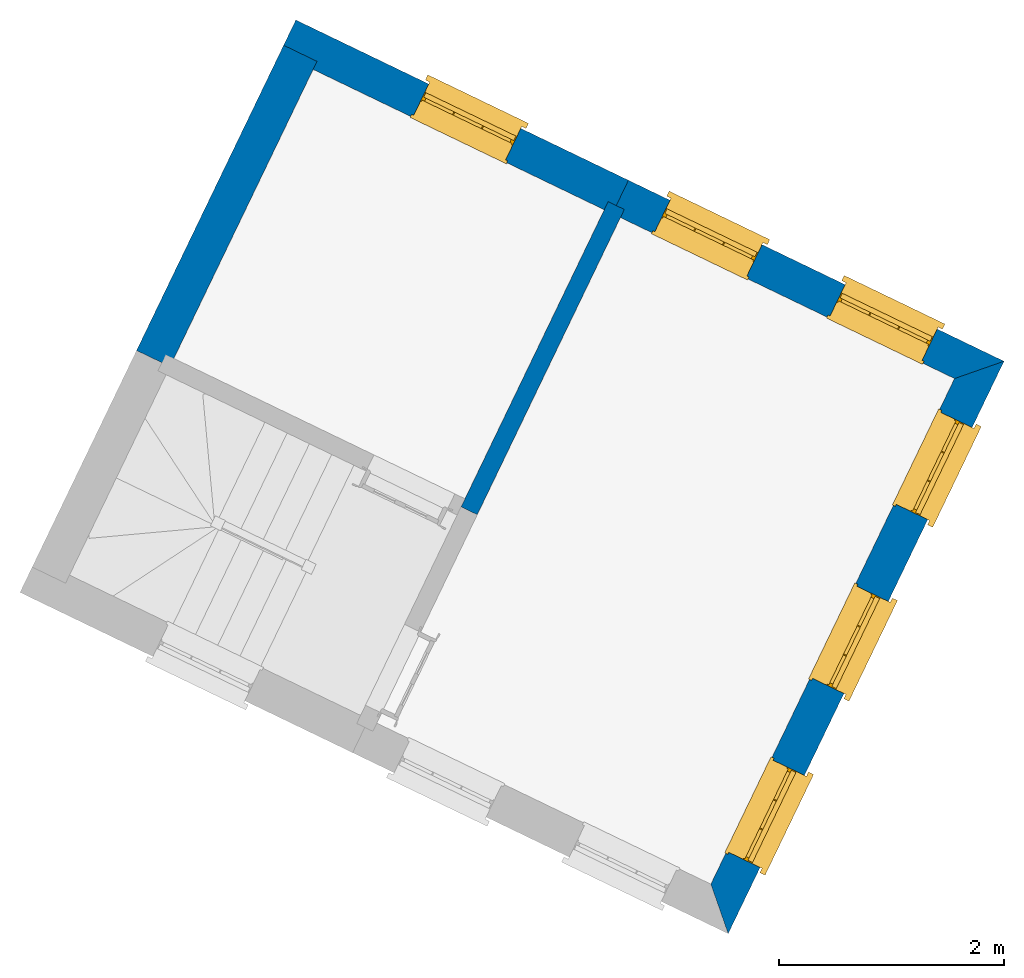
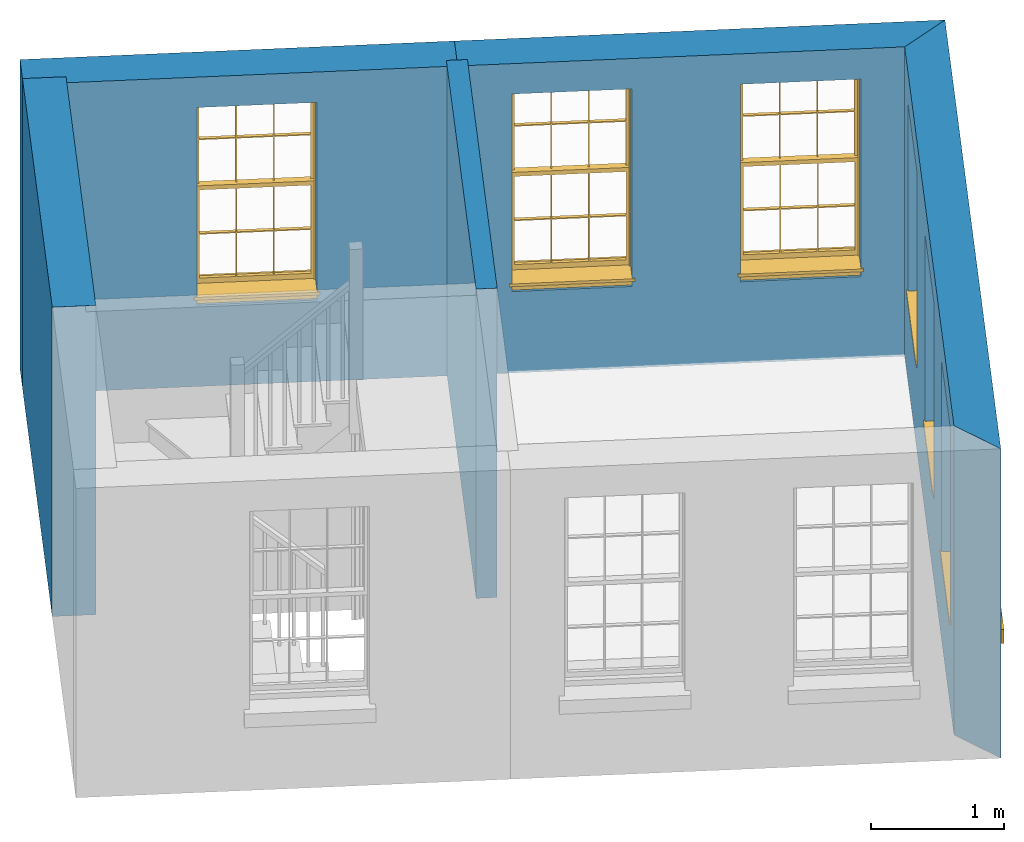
# One storey, part 2 of 3: 6 windows, 5 walls, 6 openings.
"""IFC4 building model written with IfcOpenShell, lengths in metres."""

from ifc_helpers import new_model, si_unit, frame, origin, origin_with_axes, place, context, subcontext, project, spatial, polyline, outline, extrude, faceted_brep, source, transform, mapped, material, layer, layer_set, layer_usage, type_object, type_shapes, element, fill, save


model = new_model("IFC4")

# Units and contexts
model_context = context("Model", 3, world=origin_with_axes())
body_context = subcontext(model_context, "Body", "Model", "MODEL_VIEW")
ifc_project = project(units=[si_unit("PLANEANGLEUNIT", "RADIAN"), si_unit("MASSUNIT", "GRAM", prefix="KILO"), si_unit("FORCEUNIT", "NEWTON", prefix="KILO"), si_unit("LENGTHUNIT", "METRE"), si_unit("AREAUNIT", "SQUARE_METRE"), si_unit("VOLUMEUNIT", "CUBIC_METRE")], contexts=[model_context, model_context])

# Sites, building, storey
site_1_placement = place(None, origin_with_axes())
site_1 = spatial("IfcSite", under=ifc_project, at=site_1_placement, Name="Tamar")
site_2_placement = place(site_1_placement, origin_with_axes())
site_2 = spatial("IfcSite", under=site_1, at=site_2_placement, Name="Site plot-2", CompositionType="ELEMENT")
building_placement = place(None, origin_with_axes())
building = spatial("IfcBuilding", under=site_2, at=building_placement, Name="Building plot-2", CompositionType="ELEMENT")
storey_placement = place(None, frame((0.0, 0.0, 28.7), z_axis=(0.0, 0.0, 1.0), x_axis=(1.0, 0.0, 0.0)))
storey = spatial("IfcBuildingStorey", under=building, at=storey_placement, Name="plot-2 1", CompositionType="ELEMENT", Elevation=28.7)

# Wall, openings, windows
ifc_material_1 = material(Name="Masonry")
ifc_layer_1 = layer(ifc_material_1, 0.33, ventilated=False)
ifc_layer_set_1 = layer_set([ifc_layer_1], Name="exterior_0.08_0.25")
ifc_layer_usage_1 = layer_usage(ifc_layer_set_1, "AXIS2", "POSITIVE", -0.25)
wall_type_1 = type_object("IfcWallType", Name="exterior_0.08_0.25", PredefinedType="SOLIDWALL", material=ifc_layer_set_1)
wall_1_placement = place(storey_placement, frame((233.57279828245, 288.487166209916, 0.0), z_axis=(0.0, 0.0, 1.0), x_axis=(0.434117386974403, 0.900856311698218, 0.0)))
wall_1 = element("IfcWall", 1, at=wall_1_placement, inside=storey, type_object=wall_type_1, material=ifc_layer_usage_1, Name="exterior", context=body_context, shape_type="SweptSolid", body=[
    extrude(outline(polyline([(0.0800000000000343, 0.0800000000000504), (-0.250000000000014, -0.250000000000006), (5.40807761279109, -0.249999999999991), (5.07807761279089, 0.0800000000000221), (0.0800000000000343, 0.0800000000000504)])), origin_with_axes(), (0.0, 0.0, 1.0), 2.85),
])
opening_1_placement = place(wall_1_placement, frame((0.404679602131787, 0.0, 0.75)))
opening_1 = element("IfcOpeningElement", 2, at=opening_1_placement, cuts=wall_1, Name="My Opening", ObjectType="Opening", context=body_context, shape_type="SweptSolid", body=[
    extrude(outline(polyline([(0.0, -0.270000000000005), (0.910000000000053, -0.27), (0.910000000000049, 1.09999999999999), (-3.33066907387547e-15, 1.09999999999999), (0.0, -0.270000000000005)])), origin_with_axes(), (0.0, 0.0, 1.0), 1.82),
])
opening_2_placement = place(wall_1_placement, frame((2.12403880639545, 0.0, 0.75)))
opening_2 = element("IfcOpeningElement", 3, at=opening_2_placement, cuts=wall_1, Name="My Opening", ObjectType="Opening", context=body_context, shape_type="SweptSolid", body=[
    extrude(outline(polyline([(0.0, -0.270000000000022), (0.91000000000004, -0.269999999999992), (0.910000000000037, 1.1), (-3.10862446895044e-15, 1.09999999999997), (0.0, -0.270000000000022)])), origin_with_axes(), (0.0, 0.0, 1.0), 1.82),
])
opening_3_placement = place(wall_1_placement, frame((3.8433980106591, 0.0, 0.75)))
opening_3 = element("IfcOpeningElement", 4, at=opening_3_placement, cuts=wall_1, Name="My Opening", ObjectType="Opening", context=body_context, shape_type="SweptSolid", body=[
    extrude(outline(polyline([(0.0, -0.270000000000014), (0.910000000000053, -0.270000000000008), (0.91000000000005, 1.09999999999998), (-3.10862446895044e-15, 1.09999999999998), (0.0, -0.270000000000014)])), origin_with_axes(), (0.0, 0.0, 1.0), 1.82),
])
window_type = type_object("IfcWindowType", Name="sash_big", PartitioningType="DOUBLE_PANEL_HORIZONTAL", PredefinedType="NOTDEFINED")
shared_shape = source(origin(), body_context, "Body", "Brep", [
    faceted_brep([(0.033125, 0.145, 0.975209), (0.01, 0.145, 0.975209), (0.033125, 0.145, 1.376042), (0.876875, 0.145, 0.975209), (0.876875, 0.145, 1.376042), (0.9, 0.145, 0.975209), (0.876875, 0.145, 1.386042), (0.876875, 0.145, 1.786875), (0.9, 0.145, 1.81), (0.033125, 0.145, 1.786875), (0.033125, 0.145, 1.386042), (0.01, 0.145, 1.81), (0.876875, 0.115, 1.376042), (0.876875, 0.115, 0.975209), (0.9, 0.115, 0.937083), (0.033125, 0.115, 1.786875), (0.01, 0.115, 1.81), (0.033125, 0.115, 1.386042), (0.01, 0.115, 0.937083), (0.033125, 0.115, 0.975209), (0.033125, 0.115, 1.376042), (0.876875, 0.115, 1.786875), (0.876875, 0.115, 1.386042), (0.9, 0.115, 1.81), (0.033125, 0.145, 0.937083), (0.01, 0.145, 0.937083), (0.033125, 0.145, 0.53625), (0.876875, 0.145, 0.937083), (0.876875, 0.145, 0.53625), (0.9, 0.145, 0.937083), (0.876875, 0.145, 0.52625), (0.876875, 0.145, 0.125417), (0.9, 0.145, 0.077167), (0.033125, 0.145, 0.125417), (0.033125, 0.145, 0.52625), (0.01, 0.145, 0.077167), (-0.0425, 0.0, 0.01), (-0.0425, -0.05, 0.001667), (0.0, 0.0, 0.01), (0.9525, 0.0, 0.01), (0.91, 0.0, 0.01), (0.9525, -0.05, 0.001667), (-0.02, 0.33, 0.077167), (0.0, 0.33, 0.077167), (-0.02, 0.36, 0.077167), (0.0, 0.19, 0.077167), (0.01, 0.19, 0.077167), (0.91, 0.19, 0.077167), (0.91, 0.33, 0.077167), (0.9, 0.19, 0.077167), (0.93, 0.33, 0.077167), (0.93, 0.36, 0.077167), (0.01, 0.175, 0.975209), (0.9, 0.175, 0.975209), (0.876875, 0.175, 0.125417), (0.876875, 0.175, 0.52625), (0.9, 0.175, 0.077167), (0.876875, 0.175, 0.53625), (0.876875, 0.175, 0.937083), (0.033125, 0.175, 0.125417), (0.01, 0.175, 0.077167), (0.033125, 0.175, 0.52625), (0.033125, 0.175, 0.937083), (0.033125, 0.175, 0.53625), (-0.02, 0.33, 0.052167), (-0.02, 0.36, 0.052167), (0.93, 0.36, 0.052167), (0.93, 0.33, 0.052167), (0.91, 0.33, 0.052167), (0.0, 0.33, 0.052167), (0.91, 0.1, 0.026667), (0.0, 0.1, 0.026667), (-0.0425, -0.05, -0.123333), (0.9525, -0.05, -0.123333), (-0.0425, 0.0, -0.123333), (0.9525, 0.0, -0.123333), (0.01, 0.19, 1.81), (0.9, 0.19, 1.81), (0.0, 0.19, 1.82), (0.91, 0.19, 1.82), (0.01, 0.1, 0.077167), (0.9, 0.1, 0.077167), (0.592292, 0.145, 0.125417), (0.592292, 0.175, 0.125417), (0.317708, 0.175, 0.125417), (0.317708, 0.145, 0.125417), (0.592292, 0.145, 0.53625), (0.317708, 0.145, 0.53625), (0.317708, 0.145, 0.52625), (0.592292, 0.145, 0.52625), (0.592292, 0.175, 0.53625), (0.317708, 0.175, 0.53625), (0.592292, 0.115, 1.386042), (0.592292, 0.145, 1.386042), (0.317708, 0.145, 1.386042), (0.317708, 0.115, 1.386042), (0.317708, 0.115, 1.376042), (0.592292, 0.115, 1.376042), (0.317708, 0.145, 1.376042), (0.592292, 0.145, 1.376042), (0.602292, 0.115, 1.376042), (0.592292, 0.115, 0.975209), (0.602292, 0.115, 0.975209), (0.602292, 0.145, 0.975209), (0.592292, 0.145, 0.975209), (0.602292, 0.145, 1.376042), (0.602292, 0.175, 0.53625), (0.602292, 0.145, 0.53625), (0.317708, 0.175, 0.52625), (0.307708, 0.175, 0.125417), (0.307708, 0.175, 0.52625), (0.602292, 0.175, 0.52625), (0.602292, 0.175, 0.125417), (0.592292, 0.175, 0.52625), (0.307708, 0.175, 0.53625), (0.317708, 0.175, 0.937083), (0.307708, 0.175, 0.937083), (0.602292, 0.175, 0.937083), (0.592292, 0.175, 0.937083), (0.307708, 0.145, 0.52625), (0.307708, 0.145, 0.125417), (0.307708, 0.145, 0.53625), (0.307708, 0.145, 0.937083), (0.592292, 0.145, 0.937083), (0.317708, 0.145, 0.937083), (0.602292, 0.145, 0.937083), (0.602292, 0.145, 0.52625), (0.602292, 0.145, 0.125417), (0.307708, 0.115, 1.386042), (0.307708, 0.115, 1.376042), (0.307708, 0.115, 0.975209), (0.317708, 0.115, 0.975209), (0.317708, 0.115, 1.786875), (0.307708, 0.115, 1.786875), (0.602292, 0.115, 1.786875), (0.592292, 0.115, 1.786875), (0.602292, 0.115, 1.386042), (0.602292, 0.145, 1.386042), (0.307708, 0.145, 1.386042), (0.307708, 0.145, 1.786875), (0.317708, 0.145, 1.786875), (0.592292, 0.145, 1.786875), (0.602292, 0.145, 1.786875), (0.307708, 0.145, 1.376042), (0.317708, 0.145, 0.975209), (0.307708, 0.145, 0.975209), (0.91, 0.1, 1.82), (0.9, 0.1, 1.81), (0.01, 0.1, 1.81), (0.0, 0.1, 1.82), (0.91, 0.0, 0.0), (0.0, 0.0, 0.0), (0.91, 0.33, 0.0), (0.0, 0.33, 0.0)], [[[0, 1, 2]], [[3, 4, 5]], [[6, 7, 8]], [[9, 10, 11]], [[12, 13, 14]], [[15, 16, 17]], [[18, 19, 20]], [[21, 22, 23]], [[24, 25, 26]], [[27, 28, 29]], [[30, 31, 32]], [[33, 34, 35]], [[14, 27, 29]], [[25, 24, 18]], [[36, 37, 38]], [[39, 40, 41]], [[42, 43, 44]], [[45, 46, 43]], [[47, 48, 49]], [[50, 51, 48]], [[1, 0, 52]], [[5, 53, 3]], [[54, 55, 56]], [[57, 58, 53]], [[59, 60, 61]], [[62, 63, 52]], [[48, 43, 46, 49]], [[51, 44, 43, 48]], [[64, 42, 44, 65]], [[65, 44, 51, 66]], [[66, 51, 50, 67]], [[65, 66, 68, 69]], [[60, 56, 49, 46]], [[70, 71, 38, 40]], [[37, 41, 40, 38]], [[37, 72, 73, 41]], [[74, 75, 73, 72]], [[8, 11, 76, 77]], [[76, 78, 79, 77]], [[32, 35, 80, 81]], [[81, 80, 71, 70]], [[82, 83, 84, 85]], [[86, 87, 88, 89]], [[86, 90, 91, 87]], [[92, 93, 94, 95]], [[92, 95, 96, 97]], [[96, 98, 99, 97]], [[100, 97, 101, 102]], [[103, 104, 99, 105]], [[97, 99, 104, 101]], [[102, 103, 105, 100]], [[28, 57, 106, 107]], [[108, 84, 109, 110]], [[111, 112, 83, 113]], [[114, 110, 61, 63]], [[90, 113, 108, 91]], [[115, 91, 114, 116]], [[117, 106, 90, 118]], [[111, 106, 57, 55]], [[119, 110, 109, 120]], [[34, 61, 110, 119]], [[89, 113, 83, 82]], [[88, 108, 113, 89]], [[85, 84, 108, 88]], [[121, 114, 63, 26]], [[122, 116, 114, 121]], [[123, 118, 90, 86]], [[87, 91, 115, 124]], [[107, 106, 117, 125]], [[126, 111, 55, 30]], [[127, 112, 111, 126]], [[126, 30, 28, 107]], [[88, 119, 120, 85]], [[126, 89, 82, 127]], [[125, 123, 86, 107]], [[121, 26, 34, 119]], [[124, 122, 121, 87]], [[128, 17, 20, 129]], [[96, 129, 130, 131]], [[132, 133, 128, 95]], [[134, 135, 92, 136]], [[100, 12, 22, 136]], [[137, 6, 4, 105]], [[94, 138, 139, 140]], [[137, 93, 141, 142]], [[99, 98, 94, 93]], [[143, 2, 10, 138]], [[144, 145, 143, 98]], [[129, 143, 145, 130]], [[20, 2, 143, 129]], [[131, 144, 98, 96]], [[128, 138, 10, 17]], [[133, 139, 138, 128]], [[135, 141, 93, 92]], [[95, 94, 140, 132]], [[22, 6, 137, 136]], [[136, 137, 142, 134]], [[100, 105, 4, 12]], [[107, 86, 89, 126]], [[106, 111, 113, 90]], [[91, 108, 110, 114]], [[87, 121, 119, 88]], [[97, 100, 136, 92]], [[129, 96, 95, 128]], [[98, 143, 138, 94]], [[105, 99, 93, 137]], [[131, 101, 104, 144]], [[124, 115, 118, 123]], [[132, 140, 141, 135]], [[120, 109, 59, 33]], [[15, 9, 139, 133]], [[134, 142, 7, 21]], [[31, 54, 112, 127]], [[36, 74, 72, 37]], [[39, 41, 73, 75]], [[18, 14, 101, 131]], [[23, 16, 132, 135]], [[83, 56, 60, 84]], [[52, 53, 118, 115]], [[53, 52, 144, 104]], [[11, 8, 141, 140]], [[14, 18, 124, 123]], [[2, 1, 11, 10]], [[8, 5, 4, 6]], [[57, 53, 56, 55]], [[60, 52, 63, 61]], [[26, 25, 35, 34]], [[32, 29, 28, 30]], [[14, 23, 22, 12]], [[18, 20, 17, 16]], [[19, 0, 2, 20]], [[17, 10, 9, 15]], [[12, 4, 3, 13]], [[21, 7, 6, 22]], [[27, 58, 57, 28]], [[30, 55, 54, 31]], [[33, 59, 61, 34]], [[26, 63, 62, 24]], [[5, 8, 77, 53]], [[76, 11, 1, 52]], [[46, 45, 78, 76]], [[49, 77, 79, 47]], [[70, 146, 147, 81]], [[71, 80, 148, 149]], [[19, 130, 145, 0]], [[102, 13, 3, 103]], [[116, 122, 24, 62]], [[29, 32, 81, 14]], [[80, 35, 25, 18]], [[60, 46, 76, 52]], [[77, 49, 56, 53]], [[23, 14, 81, 147]], [[16, 148, 80, 18]], [[35, 85, 120]], [[120, 33, 35]], [[127, 82, 32]], [[32, 31, 127]], [[32, 82, 85, 35]], [[102, 101, 14]], [[14, 13, 102]], [[18, 131, 130]], [[130, 19, 18]], [[134, 21, 23]], [[23, 135, 134]], [[16, 15, 133]], [[133, 132, 16]], [[11, 140, 139]], [[139, 9, 11]], [[142, 141, 8]], [[8, 7, 142]], [[23, 147, 148, 16]], [[146, 149, 148, 147]], [[52, 115, 116]], [[116, 62, 52]], [[118, 53, 117]], [[58, 117, 53]], [[27, 125, 117, 58]], [[56, 83, 112]], [[112, 54, 56]], [[109, 84, 60]], [[60, 59, 109]], [[125, 27, 14]], [[14, 123, 125]], [[122, 124, 18]], [[18, 24, 122]], [[145, 144, 52]], [[52, 0, 145]], [[103, 3, 53]], [[53, 104, 103]], [[79, 78, 149, 146]], [[78, 45, 71, 149]], [[146, 70, 47, 79]], [[150, 75, 74, 151]], [[68, 66, 67]], [[48, 68, 67, 50]], [[69, 64, 65]], [[42, 64, 69, 43]], [[69, 68, 152, 153]], [[70, 68, 48, 47]], [[150, 152, 68, 70]], [[43, 69, 71, 45]], [[69, 153, 151, 71]], [[152, 150, 151, 153]], [[38, 151, 74, 36]], [[71, 151, 38]], [[39, 75, 150, 40]], [[40, 150, 70]]]),
])
type_shapes(window_type, [shared_shape])
window_1_placement = place(storey_placement, frame((233.991707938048, 288.734512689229, 0.75), z_axis=(0.0, 0.0, 1.0), x_axis=(0.395046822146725, 0.819779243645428, 0.0)))
window_1 = element("IfcWindow", 5, at=window_1_placement, inside=storey, type_object=window_type, Name="bedroom outside window", OverallHeight=1.82, OverallWidth=0.91, context=body_context, shape_type="MappedRepresentation", body=[
    mapped(shared_shape, transform((0.0, 0.0, 0.0), scale=1.0)),
])
fill(opening_1, window_1)
window_2_placement = place(storey_placement, frame((234.738111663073, 290.283408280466, 0.75), z_axis=(0.0, 0.0, 1.0), x_axis=(0.395046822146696, 0.819779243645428, 0.0)))
window_2 = element("IfcWindow", 6, at=window_2_placement, inside=storey, type_object=window_type, Name="bedroom outside window", OverallHeight=1.82, OverallWidth=0.91, context=body_context, shape_type="MappedRepresentation", body=[
    mapped(shared_shape, transform((0.0, 0.0, 0.0), scale=1.0)),
])
fill(opening_2, window_2)
window_3_placement = place(storey_placement, frame((235.484515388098, 291.832303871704, 0.75), z_axis=(0.0, 0.0, 1.0), x_axis=(0.395046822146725, 0.819779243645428, 0.0)))
window_3 = element("IfcWindow", 7, at=window_3_placement, inside=storey, type_object=window_type, Name="bedroom outside window", OverallHeight=1.82, OverallWidth=0.91, context=body_context, shape_type="MappedRepresentation", body=[
    mapped(shared_shape, transform((0.0, 0.0, 0.0), scale=1.0)),
])
fill(opening_3, window_3)

wall_2_placement = place(storey_placement, frame((235.812009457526, 293.133852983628, 0.0), z_axis=(0.0, 0.0, 1.0), x_axis=(-0.900856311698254, 0.434117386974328, 0.0)))
wall_2 = element("IfcWall", 8, at=wall_2_placement, inside=storey, type_object=wall_type_1, material=ifc_layer_usage_1, Name="exterior", context=body_context, shape_type="SweptSolid", body=[
    extrude(outline(polyline([(0.0800000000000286, 0.0800000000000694), (-0.250000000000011, -0.250000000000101), (3.46234567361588, -0.250000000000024), (3.46234567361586, 0.0800000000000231), (0.0800000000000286, 0.0800000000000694)])), origin_with_axes(), (0.0, 0.0, 1.0), 2.85),
])
opening_4_placement = place(wall_2_placement, frame((0.410586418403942, 0.0, 0.75)))
opening_4 = element("IfcOpeningElement", 9, at=opening_4_placement, cuts=wall_2, Name="My Opening", ObjectType="Opening", context=body_context, shape_type="SweptSolid", body=[
    extrude(outline(polyline([(0.0, -0.269999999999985), (0.910000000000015, -0.269999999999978), (0.910000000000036, 1.1), (2.03170813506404e-14, 1.1), (0.0, -0.269999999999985)])), origin_with_axes(), (0.0, 0.0, 1.0), 1.82),
])
opening_5_placement = place(wall_2_placement, frame((2.14175925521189, 0.0, 0.75)))
opening_5 = element("IfcOpeningElement", 10, at=opening_5_placement, cuts=wall_2, Name="My Opening", ObjectType="Opening", context=body_context, shape_type="SweptSolid", body=[
    extrude(outline(polyline([(0.0, -0.270000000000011), (0.910000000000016, -0.270000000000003), (0.910000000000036, 1.09999999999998), (2.08721928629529e-14, 1.09999999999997), (0.0, -0.270000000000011)])), origin_with_axes(), (0.0, 0.0, 1.0), 1.82),
])
window_4_placement = place(storey_placement, frame((235.559341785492, 293.555326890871, 0.75), z_axis=(0.0, 0.0, 1.0), x_axis=(-0.819779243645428, 0.395046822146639, 0.0)))
window_4 = element("IfcWindow", 11, at=window_4_placement, inside=storey, type_object=window_type, Name="bedroom outside window", OverallHeight=1.82, OverallWidth=0.91, context=body_context, shape_type="MappedRepresentation", body=[
    mapped(shared_shape, transform((0.0, 0.0, 0.0), scale=1.0)),
])
fill(opening_4, window_4)
window_5_placement = place(storey_placement, frame((233.999803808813, 294.306859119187, 0.75), z_axis=(0.0, 0.0, 1.0), x_axis=(-0.819779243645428, 0.395046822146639, 0.0)))
window_5 = element("IfcWindow", 12, at=window_5_placement, inside=storey, type_object=window_type, Name="bedroom outside window", OverallHeight=1.82, OverallWidth=0.91, context=body_context, shape_type="MappedRepresentation", body=[
    mapped(shared_shape, transform((0.0, 0.0, 0.0), scale=1.0)),
])
fill(opening_5, window_5)

# Wall, opening, window
wall_3_placement = place(storey_placement, frame((232.692933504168, 294.63691744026, 0.0), z_axis=(0.0, 0.0, 1.0), x_axis=(-0.900856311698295, 0.434117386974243, 0.0)))
wall_3 = element("IfcWall", 13, at=wall_3_placement, inside=storey, type_object=wall_type_1, material=ifc_layer_usage_1, Name="exterior", context=body_context, shape_type="SweptSolid", body=[
    extrude(outline(polyline([(-4.92481327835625e-16, 0.0800000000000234), (-1.04207883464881e-14, -0.250000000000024), (3.28765432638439, -0.250000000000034), (3.28765432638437, 0.0800000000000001), (-4.92481327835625e-16, 0.0800000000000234)])), origin_with_axes(), (0.0, 0.0, 1.0), 2.85),
])
opening_6_placement = place(wall_3_placement, frame((1.06382716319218, 0.0, 0.75)))
opening_6 = element("IfcOpeningElement", 14, at=opening_6_placement, cuts=wall_3, Name="My Opening", ObjectType="Opening", context=body_context, shape_type="SweptSolid", body=[
    extrude(outline(polyline([(0.0, -0.27), (0.909999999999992, -0.269999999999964), (0.909999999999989, 1.10000000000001), (-2.22044604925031e-15, 1.09999999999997), (0.0, -0.27)])), origin_with_axes(), (0.0, 0.0, 1.0), 1.82),
])
window_6_placement = place(storey_placement, frame((231.851789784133, 295.341974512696, 0.75), z_axis=(0.0, 0.0, 1.0), x_axis=(-0.819779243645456, 0.395046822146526, 0.0)))
window_6 = element("IfcWindow", 15, at=window_6_placement, inside=storey, type_object=window_type, Name="bedroom outside window", OverallHeight=1.82, OverallWidth=0.91, context=body_context, shape_type="MappedRepresentation", body=[
    mapped(shared_shape, transform((0.0, 0.0, 0.0), scale=1.0)),
])
fill(opening_6, window_6)

# Walls
ifc_material_2 = material(Name="Masonry")
ifc_layer_2 = layer(ifc_material_2, 0.33, ventilated=False)
ifc_layer_set_2 = layer_set([ifc_layer_2], Name="party_0.08_0.25")
ifc_layer_usage_2 = layer_usage(ifc_layer_set_2, "AXIS2", "POSITIVE", -0.25)
wall_type_2 = type_object("IfcWallType", Name="party_0.08_0.25", PredefinedType="SOLIDWALL", material=ifc_layer_set_2)
wall_4_placement = place(storey_placement, frame((229.956443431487, 295.955615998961, 0.0), z_axis=(0.0, 0.0, 1.0), x_axis=(-0.43411738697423, -0.900856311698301, 0.0)))
element("IfcWall", 16, at=wall_4_placement, inside=storey, type_object=wall_type_2, material=ifc_layer_usage_2, Name="party", context=body_context, shape_type="SweptSolid", body=[
    extrude(outline(polyline([(-1.26623564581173e-14, 0.0799999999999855), (-2.62969775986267e-14, -0.249999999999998), (3.01696753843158, -0.249999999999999), (3.01696753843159, 0.0799999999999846), (-1.26623564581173e-14, 0.0799999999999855)])), origin_with_axes(), (0.0, 0.0, 1.0), 2.85),
])
ifc_material_3 = material(Name="Masonry")
ifc_layer_3 = layer(ifc_material_3, 0.16, ventilated=False)
ifc_layer_set_3 = layer_set([ifc_layer_3], Name="interior_0.08_0.08")
ifc_layer_usage_3 = layer_usage(ifc_layer_set_3, "AXIS2", "POSITIVE", -0.08)
wall_type_3 = type_object("IfcWallType", Name="interior_0.08_0.08", PredefinedType="SOLIDWALL", material=ifc_layer_set_3)
wall_5_placement = place(storey_placement, frame((231.383215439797, 291.919063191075, 0.0), z_axis=(0.0, 0.0, 1.0), x_axis=(0.434117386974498, 0.900856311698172, 0.0)))
element("IfcWall", 17, at=wall_5_placement, inside=storey, type_object=wall_type_3, material=ifc_layer_usage_3, Name="interior", context=body_context, shape_type="SweptSolid", body=[
    extrude(outline(polyline([(1.48019510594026e-14, 0.0800000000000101), (-1.47921538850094e-14, -0.0800000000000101), (3.01696753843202, -0.0800000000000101), (3.01696753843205, 0.0800000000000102), (1.48019510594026e-14, 0.0800000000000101)])), origin_with_axes(), (0.0, 0.0, 1.0), 2.85),
])

save(model, "model.ifc")
